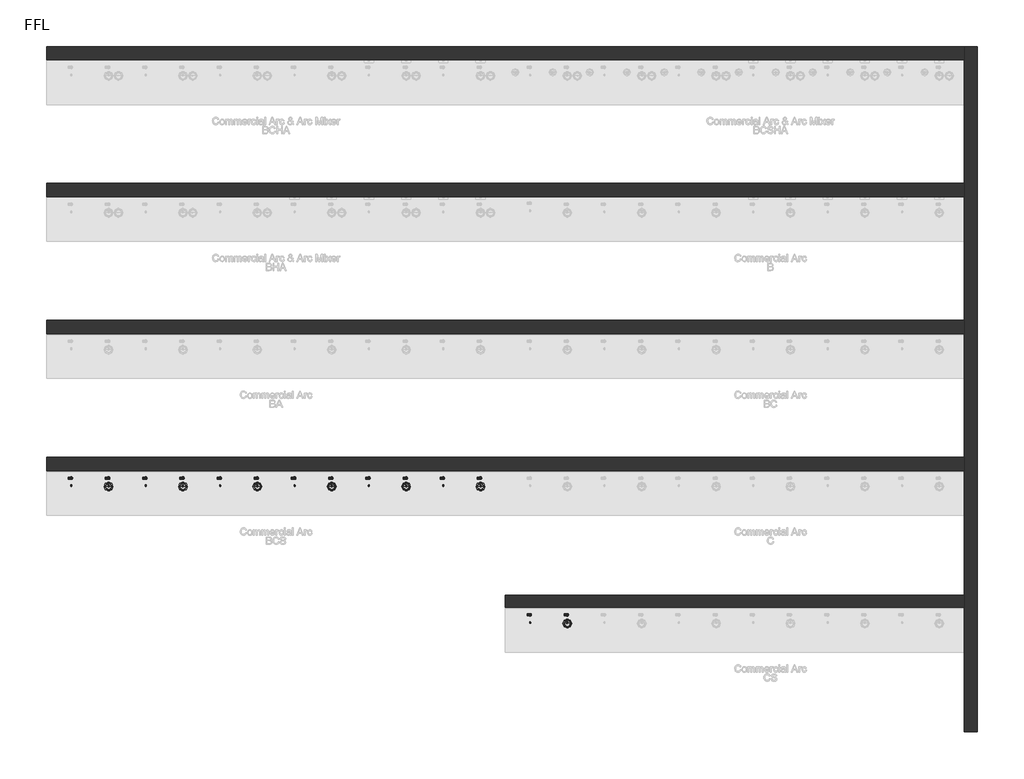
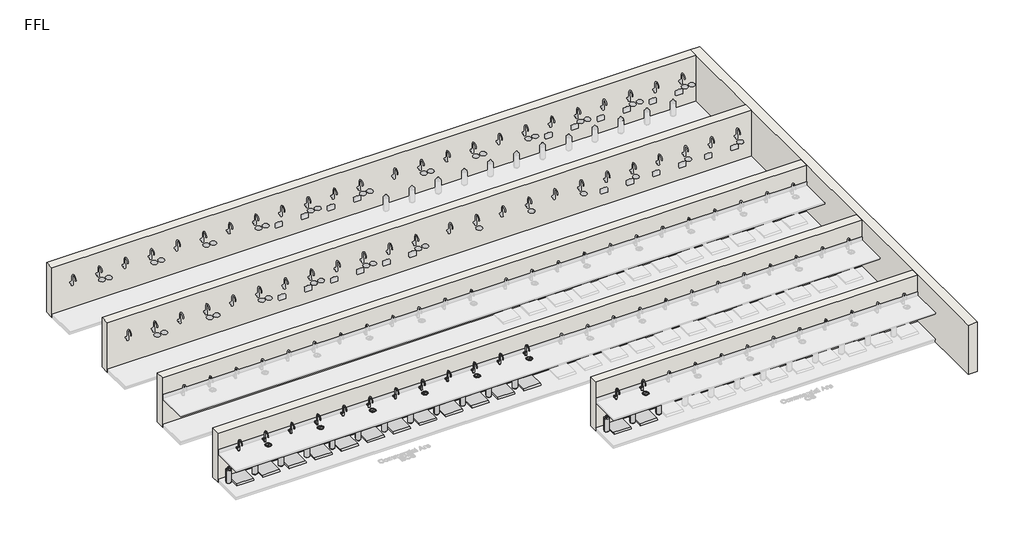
# One storey, part 1 of 10: 56 flow terminals, 6 walls.
"""IFC4 building model written with IfcOpenShell, lengths in millimetres."""

from ifc_helpers import new_model, si_unit, origin, origin_with_axes, place, context, project, spatial, polyline, outline, extrude, faceted_brep, transform, mapped, element, save
from components import flow_terminal_100_people_nickel_19c471c0, bcs_and_bc_6de74493, bright_chrome_743c02cf, bright_chrome_7ff5033f, co2_gas_cylinder_20234e14

model = new_model("IFC4")

# Units and contexts
model_context = context("Model", 3, world=origin())
ifc_project = project(units=[si_unit("LENGTHUNIT", "METRE", prefix="MILLI")], contexts=[model_context])

# Site, building, storey
site = spatial("IfcSite", under=ifc_project)
building = spatial("IfcBuilding", under=site)
storey = spatial("IfcBuildingStorey", under=building, Name="FFL", Elevation=0.0)

# Flow terminals
placement = place(None, origin())
flow_terminal_100_people_nickel_shape = flow_terminal_100_people_nickel_19c471c0(model_context)
element("IfcFlowTerminal", 1, ObjectType="PlumFixt_Zip Commercial_Arc_CS : 100 People - Bright Chrome", at=placement, inside=storey, context=model_context, shape_type="MappedRepresentation", body=[
    mapped(flow_terminal_100_people_nickel_shape, transform((2779.2647071, -3457.2606696, 0.0), x_axis=(1.0, 0.0, 0.0), y_axis=(0.0, 1.0, 0.0), z_axis=(0.0, 0.0, 1.0))),
])
element("IfcFlowTerminal", 2, ObjectType="PlumFixt_Zip Commercial_Arc_CS : 100 People - Brushed Chrome", at=placement, inside=storey, context=model_context, shape_type="MappedRepresentation", body=[
    mapped(flow_terminal_100_people_nickel_shape, transform((3529.2647071, -3457.2606696, 0.0), x_axis=(1.0, 0.0, 0.0), y_axis=(0.0, 1.0, 0.0), z_axis=(0.0, 0.0, 1.0))),
])
element("IfcFlowTerminal", 3, ObjectType="PlumFixt_Zip Commercial_Arc_BCS : 100 People - Matte Black", at=placement, inside=storey, context=model_context, shape_type="MappedRepresentation", body=[
    mapped(flow_terminal_100_people_nickel_shape, transform((-470.7352929, -697.2606696, 0.0), x_axis=(1.0, 0.0, 0.0), y_axis=(0.0, 1.0, 0.0), z_axis=(0.0, 0.0, 1.0))),
])
element("IfcFlowTerminal", 4, ObjectType="PlumFixt_Zip Commercial_Arc_BCS : 100 People - Matte Black", at=placement, inside=storey, context=model_context, shape_type="MappedRepresentation", body=[
    mapped(flow_terminal_100_people_nickel_shape, transform((1029.2647071, -697.2606696, 0.0), x_axis=(1.0, 0.0, 0.0), y_axis=(0.0, 1.0, 0.0), z_axis=(0.0, 0.0, 1.0))),
])
element("IfcFlowTerminal", 5, ObjectType="PlumFixt_Zip Commercial_Arc_BCS : 100 People - Matte Black", at=placement, inside=storey, context=model_context, shape_type="MappedRepresentation", body=[
    mapped(flow_terminal_100_people_nickel_shape, transform((279.2647071, -697.2606696, 0.0), x_axis=(1.0, 0.0, 0.0), y_axis=(0.0, 1.0, 0.0), z_axis=(0.0, 0.0, 1.0))),
])
element("IfcFlowTerminal", 6, ObjectType="PlumFixt_Zip Commercial_Arc_BCS : 100 People - Matte Black", at=placement, inside=storey, context=model_context, shape_type="MappedRepresentation", body=[
    mapped(flow_terminal_100_people_nickel_shape, transform((1779.2647071, -697.2606696, 0.0), x_axis=(1.0, 0.0, 0.0), y_axis=(0.0, 1.0, 0.0), z_axis=(0.0, 0.0, 1.0))),
])
bcs_and_bc_shape = bcs_and_bc_6de74493(model_context)
element("IfcFlowTerminal", 7, ObjectType="z_PlumFixt_Zip_Vent Tray : BCS and BC", at=placement, inside=storey, context=model_context, shape_type="MappedRepresentation", body=[
    mapped(bcs_and_bc_shape, transform((-6470.7352929, -574.2606696, 100.0), x_axis=(1.0, 0.0, 0.0), y_axis=(0.0, 1.0, 0.0), z_axis=(0.0, 0.0, 1.0))),
])
element("IfcFlowTerminal", 8, ObjectType="z_PlumFixt_Zip_Vent Tray : BCS and BC", at=placement, inside=storey, context=model_context, shape_type="MappedRepresentation", body=[
    mapped(bcs_and_bc_shape, transform((-5720.7352929, -574.2606696, 100.0), x_axis=(1.0, 0.0, 0.0), y_axis=(0.0, 1.0, 0.0), z_axis=(0.0, 0.0, 1.0))),
])
element("IfcFlowTerminal", 9, ObjectType="z_PlumFixt_Zip_Vent Tray : BCS and BC", at=placement, inside=storey, context=model_context, shape_type="MappedRepresentation", body=[
    mapped(bcs_and_bc_shape, transform((-4970.7352929, -574.2606696, 100.0), x_axis=(1.0, 0.0, 0.0), y_axis=(0.0, 1.0, 0.0), z_axis=(0.0, 0.0, 1.0))),
])
element("IfcFlowTerminal", 10, ObjectType="z_PlumFixt_Zip_Vent Tray : BCS and BC", at=placement, inside=storey, context=model_context, shape_type="MappedRepresentation", body=[
    mapped(bcs_and_bc_shape, transform((-4220.7352929, -574.2606696, 100.0), x_axis=(1.0, 0.0, 0.0), y_axis=(0.0, 1.0, 0.0), z_axis=(0.0, 0.0, 1.0))),
])
element("IfcFlowTerminal", 11, ObjectType="z_PlumFixt_Zip_Vent Tray : BCS and BC", at=placement, inside=storey, context=model_context, shape_type="MappedRepresentation", body=[
    mapped(bcs_and_bc_shape, transform((-3470.7352929, -574.2606696, 100.0), x_axis=(1.0, 0.0, 0.0), y_axis=(0.0, 1.0, 0.0), z_axis=(0.0, 0.0, 1.0))),
])
element("IfcFlowTerminal", 12, ObjectType="z_PlumFixt_Zip_Vent Tray : BCS and BC", at=placement, inside=storey, context=model_context, shape_type="MappedRepresentation", body=[
    mapped(bcs_and_bc_shape, transform((-2720.7352929, -574.2606696, 100.0), x_axis=(1.0, 0.0, 0.0), y_axis=(0.0, 1.0, 0.0), z_axis=(0.0, 0.0, 1.0))),
])
element("IfcFlowTerminal", 13, ObjectType="z_PlumFixt_Zip_Vent Tray : BCS and BC", at=placement, inside=storey, context=model_context, shape_type="MappedRepresentation", body=[
    mapped(bcs_and_bc_shape, transform((-1970.7352929, -574.2606696, 100.0), x_axis=(1.0, 0.0, 0.0), y_axis=(0.0, 1.0, 0.0), z_axis=(0.0, 0.0, 1.0))),
])
element("IfcFlowTerminal", 14, ObjectType="z_PlumFixt_Zip_Vent Tray : BCS and BC", at=placement, inside=storey, context=model_context, shape_type="MappedRepresentation", body=[
    mapped(bcs_and_bc_shape, transform((-1220.7352929, -574.2606696, 100.0), x_axis=(1.0, 0.0, 0.0), y_axis=(0.0, 1.0, 0.0), z_axis=(0.0, 0.0, 1.0))),
])
element("IfcFlowTerminal", 15, ObjectType="z_PlumFixt_Zip_Vent Tray : BCS and BC", at=placement, inside=storey, context=model_context, shape_type="MappedRepresentation", body=[
    mapped(bcs_and_bc_shape, transform((-470.7352929, -574.2606696, 100.0), x_axis=(1.0, 0.0, 0.0), y_axis=(0.0, 1.0, 0.0), z_axis=(0.0, 0.0, 1.0))),
])
element("IfcFlowTerminal", 16, ObjectType="z_PlumFixt_Zip_Vent Tray : BCS and BC", at=placement, inside=storey, context=model_context, shape_type="MappedRepresentation", body=[
    mapped(bcs_and_bc_shape, transform((279.2647071, -574.2606696, 100.0), x_axis=(1.0, 0.0, 0.0), y_axis=(0.0, 1.0, 0.0), z_axis=(0.0, 0.0, 1.0))),
])
element("IfcFlowTerminal", 17, ObjectType="z_PlumFixt_Zip_Vent Tray : BCS and BC", at=placement, inside=storey, context=model_context, shape_type="MappedRepresentation", body=[
    mapped(bcs_and_bc_shape, transform((1029.2647071, -574.2606696, 100.0), x_axis=(1.0, 0.0, 0.0), y_axis=(0.0, 1.0, 0.0), z_axis=(0.0, 0.0, 1.0))),
])
element("IfcFlowTerminal", 18, ObjectType="z_PlumFixt_Zip_Vent Tray : BCS and BC", at=placement, inside=storey, context=model_context, shape_type="MappedRepresentation", body=[
    mapped(bcs_and_bc_shape, transform((1779.2647071, -574.2606696, 100.0), x_axis=(1.0, 0.0, 0.0), y_axis=(0.0, 1.0, 0.0), z_axis=(0.0, 0.0, 1.0))),
])
bright_chrome_shape = bright_chrome_743c02cf(model_context)
element("IfcFlowTerminal", 19, ObjectType="z_PlumFixt_Zip_Font : Bright Chrome", at=placement, inside=storey, context=model_context, shape_type="MappedRepresentation", body=[
    mapped(bright_chrome_shape, transform((3529.2647071, -3528.7606696, 900.0), x_axis=(1.0000000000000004, 0.0, 0.0), y_axis=(0.0, 1.0000000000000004, 0.0), z_axis=(0.0, 0.0, 1.0))),
])
element("IfcFlowTerminal", 20, ObjectType="z_PlumFixt_Zip_Font : Bright Chrome", at=placement, inside=storey, context=model_context, shape_type="MappedRepresentation", body=[
    mapped(bright_chrome_shape, transform((-5720.7352929, -768.7606696, 900.0), x_axis=(1.0000000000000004, 0.0, 0.0), y_axis=(0.0, 1.0000000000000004, 0.0), z_axis=(0.0, 0.0, 1.0))),
])
element("IfcFlowTerminal", 21, ObjectType="z_PlumFixt_Zip_Font : Bright Chrome", at=placement, inside=storey, context=model_context, shape_type="MappedRepresentation", body=[
    mapped(bright_chrome_shape, transform((-4220.7352929, -768.7606696, 900.0), x_axis=(1.0000000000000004, 0.0, 0.0), y_axis=(0.0, 1.0000000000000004, 0.0), z_axis=(0.0, 0.0, 1.0))),
])
element("IfcFlowTerminal", 22, ObjectType="z_PlumFixt_Zip_Font : Bright Chrome", at=placement, inside=storey, context=model_context, shape_type="MappedRepresentation", body=[
    mapped(bright_chrome_shape, transform((-2720.7352929, -768.7606696, 900.0), x_axis=(1.0000000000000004, 0.0, 0.0), y_axis=(0.0, 1.0000000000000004, 0.0), z_axis=(0.0, 0.0, 1.0))),
])
element("IfcFlowTerminal", 23, ObjectType="z_PlumFixt_Zip_Font : Bright Chrome", at=placement, inside=storey, context=model_context, shape_type="MappedRepresentation", body=[
    mapped(bright_chrome_shape, transform((-1220.7352929, -768.7606696, 900.0), x_axis=(1.0000000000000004, 0.0, 0.0), y_axis=(0.0, 1.0000000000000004, 0.0), z_axis=(0.0, 0.0, 1.0))),
])
element("IfcFlowTerminal", 24, ObjectType="z_PlumFixt_Zip_Font : Bright Chrome", at=placement, inside=storey, context=model_context, shape_type="MappedRepresentation", body=[
    mapped(bright_chrome_shape, transform((279.2647071, -768.7606696, 900.0), x_axis=(1.0000000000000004, 0.0, 0.0), y_axis=(0.0, 1.0000000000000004, 0.0), z_axis=(0.0, 0.0, 1.0))),
])
element("IfcFlowTerminal", 25, ObjectType="z_PlumFixt_Zip_Font : Bright Chrome", at=placement, inside=storey, context=model_context, shape_type="MappedRepresentation", body=[
    mapped(bright_chrome_shape, transform((1779.2647071, -768.7606696, 900.0), x_axis=(1.0000000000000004, 0.0, 0.0), y_axis=(0.0, 1.0000000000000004, 0.0), z_axis=(0.0, 0.0, 1.0))),
])
bright_chrome_2_shape = bright_chrome_7ff5033f(model_context)
element("IfcFlowTerminal", 26, ObjectType="z_PlumFixt_Zip_Arc : Bright Chrome", at=placement, inside=storey, context=model_context, shape_type="MappedRepresentation", body=[
    mapped(bright_chrome_2_shape, transform((-6487.7352929, -669.2606696, 900.0), x_axis=(1.0000000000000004, 0.0, 0.0), y_axis=(0.0, 1.0000000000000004, 0.0), z_axis=(0.0, 0.0, 1.0))),
])
element("IfcFlowTerminal", 27, ObjectType="z_PlumFixt_Zip_Arc : Bright Chrome", at=placement, inside=storey, context=model_context, shape_type="MappedRepresentation", body=[
    mapped(bright_chrome_2_shape, transform((2762.2647071, -3429.2606696, 900.0), x_axis=(1.0000000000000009, 0.0, 0.0), y_axis=(0.0, 1.0000000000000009, 0.0), z_axis=(0.0, 0.0, 1.0))),
])
element("IfcFlowTerminal", 28, ObjectType="z_PlumFixt_Zip_Arc : Brushed Chrome", at=placement, inside=storey, context=model_context, shape_type="MappedRepresentation", body=[
    mapped(bright_chrome_2_shape, transform((-5737.7352929, -669.2606696, 900.0), x_axis=(1.0000000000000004, 0.0, 0.0), y_axis=(0.0, 1.0000000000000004, 0.0), z_axis=(0.0, 0.0, 1.0))),
])
element("IfcFlowTerminal", 29, ObjectType="z_PlumFixt_Zip_Arc : Brushed Chrome", at=placement, inside=storey, context=model_context, shape_type="MappedRepresentation", body=[
    mapped(bright_chrome_2_shape, transform((3512.2647071, -3429.2606696, 900.0), x_axis=(1.0000000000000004, 0.0, 0.0), y_axis=(0.0, 1.0000000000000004, 0.0), z_axis=(0.0, 0.0, 1.0))),
])
element("IfcFlowTerminal", 30, ObjectType="z_PlumFixt_Zip_Arc : Brushed Gold", at=placement, inside=storey, context=model_context, shape_type="MappedRepresentation", body=[
    mapped(bright_chrome_2_shape, transform((-4987.7352929, -669.2606696, 900.0), x_axis=(1.0000000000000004, 0.0, 0.0), y_axis=(0.0, 1.0000000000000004, 0.0), z_axis=(0.0, 0.0, 1.0))),
])
element("IfcFlowTerminal", 31, ObjectType="z_PlumFixt_Zip_Arc : Brushed Nickel", at=placement, inside=storey, context=model_context, shape_type="MappedRepresentation", body=[
    mapped(bright_chrome_2_shape, transform((-4237.7352929, -669.2606696, 900.0), x_axis=(1.0000000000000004, 0.0, 0.0), y_axis=(0.0, 1.0000000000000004, 0.0), z_axis=(0.0, 0.0, 1.0))),
])
element("IfcFlowTerminal", 32, ObjectType="z_PlumFixt_Zip_Arc : Brushed Rose Gold", at=placement, inside=storey, context=model_context, shape_type="MappedRepresentation", body=[
    mapped(bright_chrome_2_shape, transform((-3487.7352929, -669.2606696, 900.0), x_axis=(1.0000000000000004, 0.0, 0.0), y_axis=(0.0, 1.0000000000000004, 0.0), z_axis=(0.0, 0.0, 1.0))),
])
co2_gas_cylinder_shape = co2_gas_cylinder_20234e14(model_context)
element("IfcFlowTerminal", 33, ObjectType="z_PlumFixt_Zip_CO2 Gas Cylinder : CO2 Gas Cylinder", at=placement, inside=storey, context=model_context, shape_type="MappedRepresentation", body=[
    mapped(co2_gas_cylinder_shape, transform((-6817.7352929, -769.2606696, 100.0), x_axis=(-1.0, 0.0, 0.0), y_axis=(0.0, -1.0, 0.0), z_axis=(0.0, 0.0, 1.0))),
])
element("IfcFlowTerminal", 34, ObjectType="z_PlumFixt_Zip_CO2 Gas Cylinder : CO2 Gas Cylinder", at=placement, inside=storey, context=model_context, shape_type="MappedRepresentation", body=[
    mapped(co2_gas_cylinder_shape, transform((-6067.7352929, -769.2606696, 100.0), x_axis=(-1.0, 0.0, 0.0), y_axis=(0.0, -1.0, 0.0), z_axis=(0.0, 0.0, 1.0))),
])
element("IfcFlowTerminal", 35, ObjectType="z_PlumFixt_Zip_CO2 Gas Cylinder : CO2 Gas Cylinder", at=placement, inside=storey, context=model_context, shape_type="MappedRepresentation", body=[
    mapped(co2_gas_cylinder_shape, transform((-5317.7352929, -769.2606696, 100.0), x_axis=(-1.0, 0.0, 0.0), y_axis=(0.0, -1.0, 0.0), z_axis=(0.0, 0.0, 1.0))),
])
element("IfcFlowTerminal", 36, ObjectType="z_PlumFixt_Zip_CO2 Gas Cylinder : CO2 Gas Cylinder", at=placement, inside=storey, context=model_context, shape_type="MappedRepresentation", body=[
    mapped(co2_gas_cylinder_shape, transform((-4567.7352929, -769.2606696, 100.0), x_axis=(-1.0, 0.0, 0.0), y_axis=(0.0, -1.0, 0.0), z_axis=(0.0, 0.0, 1.0))),
])
element("IfcFlowTerminal", 37, ObjectType="z_PlumFixt_Zip_CO2 Gas Cylinder : CO2 Gas Cylinder", at=placement, inside=storey, context=model_context, shape_type="MappedRepresentation", body=[
    mapped(co2_gas_cylinder_shape, transform((-3845.7352929, -770.7606696, 100.0), x_axis=(-1.0, 0.0, 0.0), y_axis=(0.0, -1.0, 0.0), z_axis=(0.0, 0.0, 1.0))),
])
element("IfcFlowTerminal", 38, ObjectType="z_PlumFixt_Zip_CO2 Gas Cylinder : CO2 Gas Cylinder", at=placement, inside=storey, context=model_context, shape_type="MappedRepresentation", body=[
    mapped(co2_gas_cylinder_shape, transform((-3095.7352929, -770.7606696, 100.0), x_axis=(-1.0, 0.0, 0.0), y_axis=(0.0, -1.0, 0.0), z_axis=(0.0, 0.0, 1.0))),
])
element("IfcFlowTerminal", 39, ObjectType="z_PlumFixt_Zip_CO2 Gas Cylinder : CO2 Gas Cylinder", at=placement, inside=storey, context=model_context, shape_type="MappedRepresentation", body=[
    mapped(co2_gas_cylinder_shape, transform((-2345.7352929, -770.7606696, 100.0), x_axis=(-1.0, 0.0, 0.0), y_axis=(0.0, -1.0, 0.0), z_axis=(0.0, 0.0, 1.0))),
])
element("IfcFlowTerminal", 40, ObjectType="z_PlumFixt_Zip_CO2 Gas Cylinder : CO2 Gas Cylinder", at=placement, inside=storey, context=model_context, shape_type="MappedRepresentation", body=[
    mapped(co2_gas_cylinder_shape, transform((-1595.7352929, -770.7606696, 100.0), x_axis=(-1.0, 0.0, 0.0), y_axis=(0.0, -1.0, 0.0), z_axis=(0.0, 0.0, 1.0))),
])
element("IfcFlowTerminal", 41, ObjectType="z_PlumFixt_Zip_CO2 Gas Cylinder : CO2 Gas Cylinder", at=placement, inside=storey, context=model_context, shape_type="MappedRepresentation", body=[
    mapped(co2_gas_cylinder_shape, transform((-845.7352929, -770.7606696, 100.0), x_axis=(-1.0, 0.0, 0.0), y_axis=(0.0, -1.0, 0.0), z_axis=(0.0, 0.0, 1.0))),
])
element("IfcFlowTerminal", 42, ObjectType="z_PlumFixt_Zip_CO2 Gas Cylinder : CO2 Gas Cylinder", at=placement, inside=storey, context=model_context, shape_type="MappedRepresentation", body=[
    mapped(co2_gas_cylinder_shape, transform((-95.7352929, -770.7606696, 100.0), x_axis=(-1.0, 0.0, 0.0), y_axis=(0.0, -1.0, 0.0), z_axis=(0.0, 0.0, 1.0))),
])
element("IfcFlowTerminal", 43, ObjectType="z_PlumFixt_Zip_CO2 Gas Cylinder : CO2 Gas Cylinder", at=placement, inside=storey, context=model_context, shape_type="MappedRepresentation", body=[
    mapped(co2_gas_cylinder_shape, transform((654.2647071, -770.7606696, 100.0), x_axis=(-1.0, 0.0, 0.0), y_axis=(0.0, -1.0, 0.0), z_axis=(0.0, 0.0, 1.0))),
])
element("IfcFlowTerminal", 44, ObjectType="z_PlumFixt_Zip_CO2 Gas Cylinder : CO2 Gas Cylinder", at=placement, inside=storey, context=model_context, shape_type="MappedRepresentation", body=[
    mapped(co2_gas_cylinder_shape, transform((1404.2647071, -770.7606696, 100.0), x_axis=(-1.0, 0.0, 0.0), y_axis=(0.0, -1.0, 0.0), z_axis=(0.0, 0.0, 1.0))),
])
element("IfcFlowTerminal", 45, ObjectType="z_PlumFixt_Zip_CO2 Gas Cylinder : CO2 Gas Cylinder", at=placement, inside=storey, context=model_context, shape_type="MappedRepresentation", body=[
    mapped(co2_gas_cylinder_shape, transform((2441.2647071, -3536.7606696, 100.0), x_axis=(-1.0, 0.0, 0.0), y_axis=(0.0, -1.0, 0.0), z_axis=(0.0, 0.0, 1.0))),
])
element("IfcFlowTerminal", 46, ObjectType="z_PlumFixt_Zip_CO2 Gas Cylinder : CO2 Gas Cylinder", at=placement, inside=storey, context=model_context, shape_type="MappedRepresentation", body=[
    mapped(co2_gas_cylinder_shape, transform((3191.2647071, -3536.7606696, 100.0), x_axis=(-1.0, 0.0, 0.0), y_axis=(0.0, -1.0, 0.0), z_axis=(0.0, 0.0, 1.0))),
])
element("IfcFlowTerminal", 47, ObjectType="z_PlumFixt_Zip_CO2 Gas Cylinder : CO2 Gas Cylinder", at=placement, inside=storey, context=model_context, shape_type="MappedRepresentation", body=[
    mapped(co2_gas_cylinder_shape, transform((3941.2647071, -3536.7606696, 100.0), x_axis=(-1.0, 0.0, 0.0), y_axis=(0.0, -1.0, 0.0), z_axis=(0.0, 0.0, 1.0))),
])
element("IfcFlowTerminal", 48, ObjectType="z_PlumFixt_Zip_Vent Tray : CS and C", at=placement, inside=storey, context=model_context, shape_type="MappedRepresentation", body=[
    mapped(bcs_and_bc_shape, transform((2779.2647071, -3334.2606696, 100.0), x_axis=(1.0, 0.0, 0.0), y_axis=(0.0, 1.0, 0.0), z_axis=(0.0, 0.0, 1.0))),
])
element("IfcFlowTerminal", 49, ObjectType="z_PlumFixt_Zip_Vent Tray : CS and C", at=placement, inside=storey, context=model_context, shape_type="MappedRepresentation", body=[
    mapped(bcs_and_bc_shape, transform((3529.2647071, -3334.2606696, 100.0), x_axis=(1.0, 0.0, 0.0), y_axis=(0.0, 1.0, 0.0), z_axis=(0.0, 0.0, 1.0))),
])
element("IfcFlowTerminal", 50, ObjectType="z_PlumFixt_Zip_Arc : Gloss Black", at=placement, inside=storey, context=model_context, shape_type="MappedRepresentation", body=[
    mapped(bright_chrome_2_shape, transform((-2737.7352929, -669.2606696, 900.0), x_axis=(1.0000000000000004, 0.0, 0.0), y_axis=(0.0, 1.0000000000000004, 0.0), z_axis=(0.0, 0.0, 1.0))),
])
element("IfcFlowTerminal", 51, ObjectType="z_PlumFixt_Zip_Arc : Gold", at=placement, inside=storey, context=model_context, shape_type="MappedRepresentation", body=[
    mapped(bright_chrome_2_shape, transform((-1987.7352929, -669.2606696, 900.0), x_axis=(1.0000000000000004, 0.0, 0.0), y_axis=(0.0, 1.0000000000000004, 0.0), z_axis=(0.0, 0.0, 1.0))),
])
element("IfcFlowTerminal", 52, ObjectType="z_PlumFixt_Zip_Arc : Gunmetal", at=placement, inside=storey, context=model_context, shape_type="MappedRepresentation", body=[
    mapped(bright_chrome_2_shape, transform((-1237.7352929, -669.2606696, 900.0), x_axis=(1.0000000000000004, 0.0, 0.0), y_axis=(0.0, 1.0000000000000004, 0.0), z_axis=(0.0, 0.0, 1.0))),
])
element("IfcFlowTerminal", 53, ObjectType="z_PlumFixt_Zip_Arc : Matte Black", at=placement, inside=storey, context=model_context, shape_type="MappedRepresentation", body=[
    mapped(bright_chrome_2_shape, transform((-487.7352929, -669.2606696, 900.0), x_axis=(1.0000000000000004, 0.0, 0.0), y_axis=(0.0, 1.0000000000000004, 0.0), z_axis=(0.0, 0.0, 1.0))),
])
element("IfcFlowTerminal", 54, ObjectType="z_PlumFixt_Zip_Arc : Matte Black", at=placement, inside=storey, context=model_context, shape_type="MappedRepresentation", body=[
    mapped(bright_chrome_2_shape, transform((1012.2647071, -669.2606696, 900.0), x_axis=(1.0000000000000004, 0.0, 0.0), y_axis=(0.0, 1.0000000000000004, 0.0), z_axis=(0.0, 0.0, 1.0))),
])
element("IfcFlowTerminal", 55, ObjectType="z_PlumFixt_Zip_Arc : Matte Black", at=placement, inside=storey, context=model_context, shape_type="MappedRepresentation", body=[
    mapped(bright_chrome_2_shape, transform((262.2647071, -669.2606696, 900.0), x_axis=(1.0000000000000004, 0.0, 0.0), y_axis=(0.0, 1.0000000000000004, 0.0), z_axis=(0.0, 0.0, 1.0))),
])
element("IfcFlowTerminal", 56, ObjectType="z_PlumFixt_Zip_Arc : Matte Black", at=placement, inside=storey, context=model_context, shape_type="MappedRepresentation", body=[
    mapped(bright_chrome_2_shape, transform((1762.2647071, -669.2606696, 900.0), x_axis=(1.0000000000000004, 0.0, 0.0), y_axis=(0.0, 1.0000000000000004, 0.0), z_axis=(0.0, 0.0, 1.0))),
])

# Walls
element("IfcWall", 57, ObjectType="Brick veneer - 250 timber", at=placement, inside=storey, context=model_context, shape_type="SweptSolid", body=[
    extrude(outline(polyline([(2280.2647071, -2941.7606696), (11530.2647071, -2941.7606696), (11530.2647071, -3191.7606696), (2280.2647071, -3191.7606696), (2280.2647071, -2941.7606696)])), origin_with_axes(), (0.0, 0.0, 1.0), 1500.0),
])
element("IfcWall", 58, ObjectType="Double brick - 270", at=placement, inside=storey, context=model_context, shape_type="Brep", body=[
    faceted_brep([(11800.2647071, -5701.7606696, 0.0), (11800.2647071, 8118.2393304, 0.0), (11800.2647071, 8118.2393304, 1500.0), (11800.2647071, -5701.7606696, 1500.0), (11530.2647071, -5701.7606696, 0.0), (11530.2647071, -5701.7606696, 1500.0), (11530.2647071, -3191.7606696, 1500.0), (11530.2647071, -2941.7606696, 1500.0), (11530.2647071, -431.7606696, 1500.0), (11530.2647071, -161.7606696, 1500.0), (11530.2647071, 2328.2393304, 1500.0), (11530.2647071, 2598.2393304, 1500.0), (11530.2647071, 5088.2393304, 1500.0), (11530.2647071, 5358.2393304, 1500.0), (11530.2647071, 7848.2393304, 1500.0), (11530.2647071, 8118.2393304, 1500.0), (11530.2647071, 8118.2393304, 0.0), (11530.2647071, 7848.2393304, 0.0), (11530.2647071, 5358.2393304, 0.0), (11530.2647071, 5088.2393304, 0.0), (11530.2647071, 2598.2393304, 0.0), (11530.2647071, 2328.2393304, 0.0), (11530.2647071, -161.7606696, 0.0), (11530.2647071, -431.7606696, 0.0), (11530.2647071, -2941.7606696, 0.0), (11530.2647071, -3191.7606696, 0.0)], [[[0, 1, 2, 3]], [[4, 5, 6, 7, 8, 9, 10, 11, 12, 13, 14, 15, 16, 17, 18, 19, 20, 21, 22, 23, 24, 25]], [[1, 0, 4, 25, 24, 23, 22, 21, 20, 19, 18, 17, 16]], [[3, 2, 15, 14, 13, 12, 11, 10, 9, 8, 7, 6, 5]], [[0, 3, 5, 4]], [[2, 1, 16, 15]]]),
])
element("IfcWall", 59, ObjectType="Double brick - 270", at=placement, inside=storey, context=model_context, shape_type="SweptSolid", body=[
    extrude(outline(polyline([(11530.2647071, 7848.2393304), (-6969.7352929, 7848.2393304), (-6969.7352929, 8118.2393304), (11530.2647071, 8118.2393304), (11530.2647071, 7848.2393304)])), origin_with_axes(), (0.0, 0.0, 1.0), 1500.0),
])
element("IfcWall", 60, ObjectType="Double brick - 270", at=placement, inside=storey, context=model_context, shape_type="SweptSolid", body=[
    extrude(outline(polyline([(11530.2647071, 5088.2393304), (-6969.7352929, 5088.2393304), (-6969.7352929, 5358.2393304), (11530.2647071, 5358.2393304), (11530.2647071, 5088.2393304)])), origin_with_axes(), (0.0, 0.0, 1.0), 1500.0),
])
element("IfcWall", 61, ObjectType="Double brick - 270", at=placement, inside=storey, context=model_context, shape_type="SweptSolid", body=[
    extrude(outline(polyline([(11530.2647071, 2328.2393304), (-6969.7352929, 2328.2393304), (-6969.7352929, 2598.2393304), (11530.2647071, 2598.2393304), (11530.2647071, 2328.2393304)])), origin_with_axes(), (0.0, 0.0, 1.0), 1500.0),
])
element("IfcWall", 62, ObjectType="Double brick - 270", at=placement, inside=storey, context=model_context, shape_type="SweptSolid", body=[
    extrude(outline(polyline([(11530.2647071, -431.7606696), (-6969.7352929, -431.7606696), (-6969.7352929, -161.7606696), (11530.2647071, -161.7606696), (11530.2647071, -431.7606696)])), origin_with_axes(), (0.0, 0.0, 1.0), 1500.0),
])

save(model, "model.ifc")
